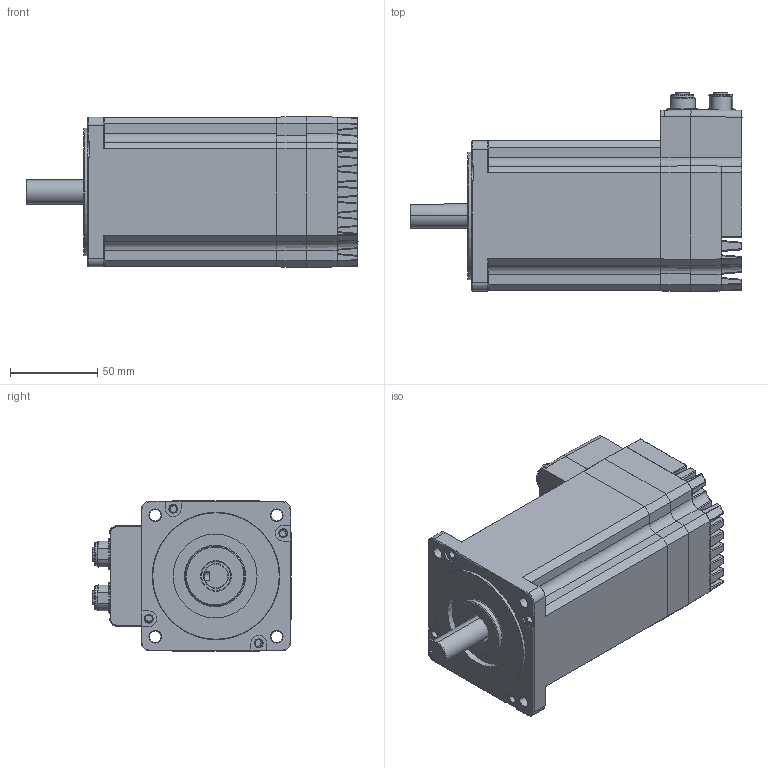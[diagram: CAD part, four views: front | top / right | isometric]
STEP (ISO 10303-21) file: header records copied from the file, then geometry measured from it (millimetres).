
FILE_DESCRIPTION((''),'2;1');
FILE_NAME('STEPPERASSY_ASM','2023-07-11T21:01:49',('KaviarasanNagaraj'),(''),'CREO PARAMETRIC BY PTC INC, 2021063','CREO PARAMETRIC BY PTC INC, 2021063','');
FILE_SCHEMA(('AUTOMOTIVE_DESIGN { 1 0 10303 214 1 1 1 1 }'));
Length unit declared in the file: millimetre
Products named in the file (10): M34_CON_R1; M34_CON_R2; MIS34_F_CONNECTOR; M34_S14K; N34PIN1; N34PIN2; N34PIN3; N34PIN4; M34_ASM; STEPPERASSY_ASM
Assembly tree (9 placements, depth 3):
  STEPPERASSY_ASM
    M34_ASM
      M34_CON_R1
      M34_CON_R2
      MIS34_F_CONNECTOR
      M34_S14K
      N34PIN1
      N34PIN2
      N34PIN3
      N34PIN4
Bounding box: 190.1 x 113.9 x 86.41 mm (x, y, z)
Volume: 1045948.8 mm3; surface area: 130676.9 mm2
Topology: 8 solids, 9 shells, 1231 faces, 3287 edges, 2029 vertices
Faces by surface type: cylinder 498, plane 483, sphere 109, cone 92, bspline 37, extrusion 8, torus 4
Entity records: 55281 total; most frequent: CARTESIAN_POINT 10413, DIRECTION 6705, ORIENTED_EDGE 6342, PRESENTATION_STYLE_ASSIGNMENT 3409, STYLED_ITEM 3213, CURVE_STYLE 3205, EDGE_CURVE 3171, AXIS2_PLACEMENT_3D 2513
